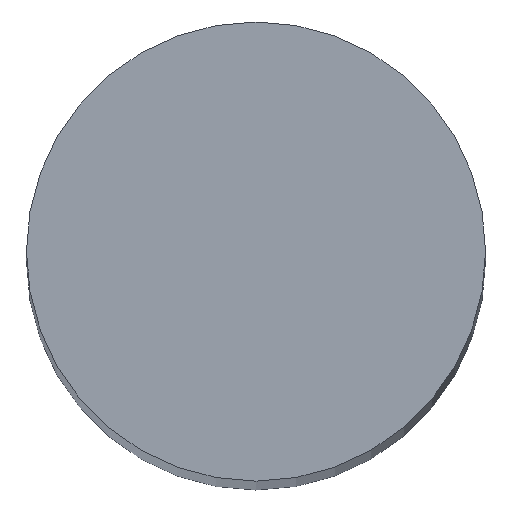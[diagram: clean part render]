
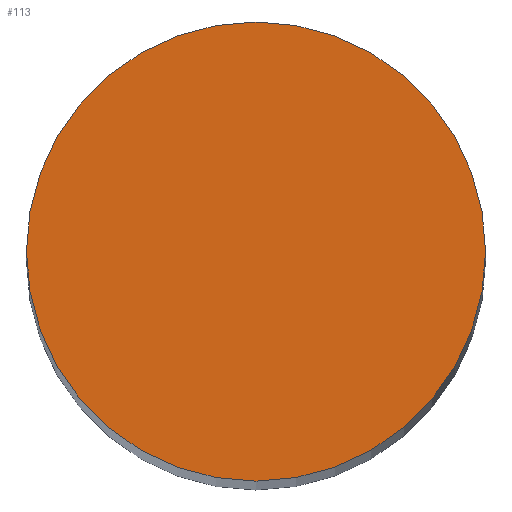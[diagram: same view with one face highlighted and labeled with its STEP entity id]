
A CAD part, top view. The second image highlights one B-rep face of the part: STEP entity #113.
In plain terms, the highlighted planar face has unit normal (0, 0, 1).
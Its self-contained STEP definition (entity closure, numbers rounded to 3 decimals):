
#4 = FACE_OUTER_BOUND ( 'NONE', #21, .T. ) ;
#9 = ORIENTED_EDGE ( 'NONE', *, *, #124, .T. ) ;
#10 = ORIENTED_EDGE ( 'NONE', *, *, #120, .T. ) ;
#21 = EDGE_LOOP ( 'NONE', ( #10, #9 ) ) ;
#27 = CIRCLE ( 'NONE', #119, 6. ) ;
#30 = CIRCLE ( 'NONE', #123, 6. ) ;
#49 = VERTEX_POINT ( 'NONE', #51 ) ;
#50 = VERTEX_POINT ( 'NONE', #56 ) ;
#51 = CARTESIAN_POINT ( 'NONE',  ( 6., 0., 66.5 ) ) ;
#56 = CARTESIAN_POINT ( 'NONE',  ( -6., 0., 66.5 ) ) ;
#65 = CARTESIAN_POINT ( 'NONE',  ( 0., 0., 66.5 ) ) ;
#66 = PLANE ( 'NONE',  #134 ) ;
#67 = DIRECTION ( 'NONE',  ( 0., 0., 1. ) ) ;
#68 = DIRECTION ( 'NONE',  ( 1., 0., 0. ) ) ;
#69 = CARTESIAN_POINT ( 'NONE',  ( 0., 0., 66.5 ) ) ;
#72 = CARTESIAN_POINT ( 'NONE',  ( 0., 0., 66.5 ) ) ;
#73 = DIRECTION ( 'NONE',  ( 0., 0., 1. ) ) ;
#74 = DIRECTION ( 'NONE',  ( 1., 0., 0. ) ) ;
#80 = DIRECTION ( 'NONE',  ( 0., 0., 1. ) ) ;
#81 = DIRECTION ( 'NONE',  ( 1., 0., 0. ) ) ;
#113 = ADVANCED_FACE ( 'NONE', ( #4 ), #66, .T. ) ;
#119 = AXIS2_PLACEMENT_3D ( 'NONE', #69, #73, #74 ) ;
#120 = EDGE_CURVE ( 'NONE', #50, #49, #27, .T. ) ;
#123 = AXIS2_PLACEMENT_3D ( 'NONE', #72, #80, #81 ) ;
#124 = EDGE_CURVE ( 'NONE', #49, #50, #30, .T. ) ;
#134 = AXIS2_PLACEMENT_3D ( 'NONE', #65, #67, #68 ) ;
